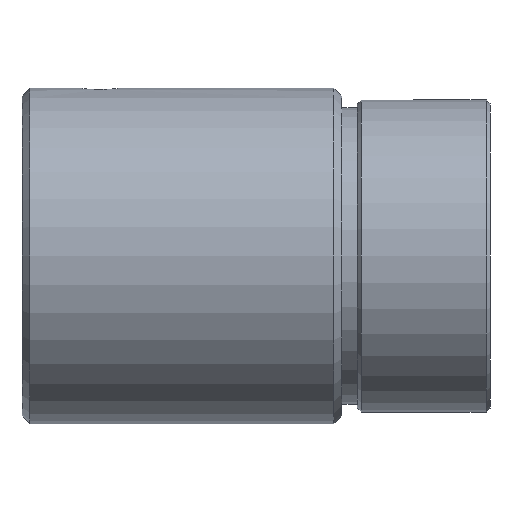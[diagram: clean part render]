
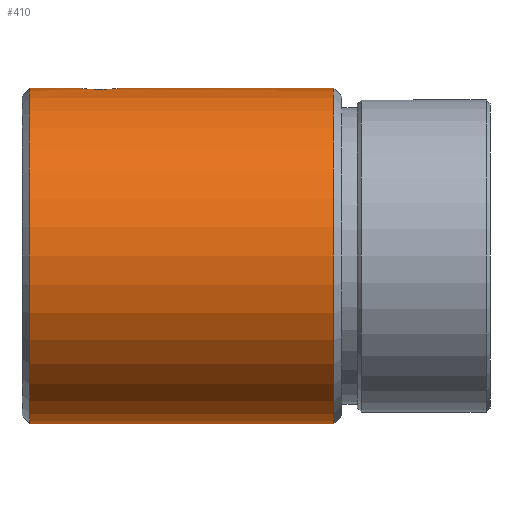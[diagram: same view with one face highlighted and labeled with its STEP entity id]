
A CAD part, front view. The second image highlights one B-rep face of the part: STEP entity #410.
In plain terms, the highlighted cylindrical face has radius 21.5 mm (diameter 43 mm), a partial arc.
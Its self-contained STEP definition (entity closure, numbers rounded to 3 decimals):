
#14 = EDGE_CURVE ( 'NONE', #494, #876, #759, .T. ) ;
#21 = CARTESIAN_POINT ( 'NONE',  ( 7.5, 0., 21.5 ) ) ;
#23 = CARTESIAN_POINT ( 'NONE',  ( 10.326, -2.484, 21.356 ) ) ;
#30 = VECTOR ( 'NONE', #858, 1000. ) ;
#62 = DIRECTION ( 'NONE',  ( -1., 0., 0. ) ) ;
#68 = CARTESIAN_POINT ( 'NONE',  ( 40., 0., -21.5 ) ) ;
#71 = CARTESIAN_POINT ( 'NONE',  ( 12.5, 0., 21.5 ) ) ;
#80 = LINE ( 'NONE', #899, #247 ) ;
#90 = CARTESIAN_POINT ( 'NONE',  ( 7.516, -0.325, 21.498 ) ) ;
#118 = ORIENTED_EDGE ( 'NONE', *, *, #203, .F. ) ;
#120 = CARTESIAN_POINT ( 'NONE',  ( 10.805, -2.373, 21.369 ) ) ;
#129 = CARTESIAN_POINT ( 'NONE',  ( -28.983, 0., 21.5 ) ) ;
#145 = ORIENTED_EDGE ( 'NONE', *, *, #377, .T. ) ;
#163 = CARTESIAN_POINT ( 'NONE',  ( 7.628, -0.806, 21.485 ) ) ;
#169 = CIRCLE ( 'NONE', #841, 21.5 ) ;
#181 = AXIS2_PLACEMENT_3D ( 'NONE', #473, #62, #553 ) ;
#194 = CARTESIAN_POINT ( 'NONE',  ( 11.251, -2.171, 21.39 ) ) ;
#200 = CARTESIAN_POINT ( 'NONE',  ( 40., 0., 0. ) ) ;
#202 = ORIENTED_EDGE ( 'NONE', *, *, #634, .T. ) ;
#203 = EDGE_CURVE ( 'NONE', #337, #876, #746, .T. ) ;
#211 = CARTESIAN_POINT ( 'NONE',  ( 12.5, 0., 21.5 ) ) ;
#230 = CARTESIAN_POINT ( 'NONE',  ( 8.746, -2.169, 21.391 ) ) ;
#231 = CARTESIAN_POINT ( 'NONE',  ( 7.83, -1.252, 21.464 ) ) ;
#247 = VECTOR ( 'NONE', #344, 1000. ) ;
#257 = CARTESIAN_POINT ( 'NONE',  ( 11.651, -1.884, 21.418 ) ) ;
#265 = DIRECTION ( 'NONE',  ( 0., 0., 1. ) ) ;
#266 = AXIS2_PLACEMENT_3D ( 'NONE', #306, #794, #378 ) ;
#272 = CARTESIAN_POINT ( 'NONE',  ( 8.116, -1.651, 21.437 ) ) ;
#284 = VERTEX_POINT ( 'NONE', #434 ) ;
#299 = CARTESIAN_POINT ( 'NONE',  ( 9.192, -2.372, 21.369 ) ) ;
#306 = CARTESIAN_POINT ( 'NONE',  ( 1., 0., 0. ) ) ;
#323 = CARTESIAN_POINT ( 'NONE',  ( 11.985, -1.528, 21.446 ) ) ;
#337 = VERTEX_POINT ( 'NONE', #647 ) ;
#344 = DIRECTION ( 'NONE',  ( -1., 0., 0. ) ) ;
#371 = CARTESIAN_POINT ( 'NONE',  ( 9.67, -2.484, 21.356 ) ) ;
#377 = EDGE_CURVE ( 'NONE', #866, #494, #169, .T. ) ;
#378 = DIRECTION ( 'NONE',  ( 0., 0., 1. ) ) ;
#393 = DIRECTION ( 'NONE',  ( -1., 0., 0. ) ) ;
#395 = CARTESIAN_POINT ( 'NONE',  ( 12.246, -1.11, 21.472 ) ) ;
#410 = ADVANCED_FACE ( 'NONE', ( #519 ), #542, .T. ) ;
#434 = CARTESIAN_POINT ( 'NONE',  ( 1., 0., -21.5 ) ) ;
#436 = CARTESIAN_POINT ( 'NONE',  ( 10.163, -2.5, 21.354 ) ) ;
#467 = EDGE_CURVE ( 'NONE', #284, #485, #603, .T. ) ;
#473 = CARTESIAN_POINT ( 'NONE',  ( -28.983, 0., 0. ) ) ;
#479 = CARTESIAN_POINT ( 'NONE',  ( 8.013, -1.525, 21.446 ) ) ;
#485 = VERTEX_POINT ( 'NONE', #516 ) ;
#486 = CARTESIAN_POINT ( 'NONE',  ( 12.5, -0.331, 21.5 ) ) ;
#494 = VERTEX_POINT ( 'NONE', #655 ) ;
#498 = EDGE_CURVE ( 'NONE', #866, #284, #584, .T. ) ;
#506 = CARTESIAN_POINT ( 'NONE',  ( 7.5, -0.163, 21.5 ) ) ;
#507 = CARTESIAN_POINT ( 'NONE',  ( 10.646, -2.421, 21.363 ) ) ;
#516 = CARTESIAN_POINT ( 'NONE',  ( 1., 0., 21.5 ) ) ;
#519 = FACE_OUTER_BOUND ( 'NONE', #748, .T. ) ;
#529 = ORIENTED_EDGE ( 'NONE', *, *, #14, .T. ) ;
#542 = CYLINDRICAL_SURFACE ( 'NONE', #181, 21.5 ) ;
#553 = DIRECTION ( 'NONE',  ( 0., 0., 1. ) ) ;
#580 = CARTESIAN_POINT ( 'NONE',  ( 7.58, -0.648, 21.491 ) ) ;
#584 = LINE ( 'NONE', #589, #30 ) ;
#589 = CARTESIAN_POINT ( 'NONE',  ( -28.983, 0., -21.5 ) ) ;
#602 = CARTESIAN_POINT ( 'NONE',  ( 11.107, -2.247, 21.382 ) ) ;
#603 = CIRCLE ( 'NONE', #266, 21.5 ) ;
#634 = EDGE_CURVE ( 'NONE', #337, #485, #80, .T. ) ;
#640 = CARTESIAN_POINT ( 'NONE',  ( 8.475, -1.987, 21.408 ) ) ;
#642 = CARTESIAN_POINT ( 'NONE',  ( 7.752, -1.107, 21.472 ) ) ;
#647 = CARTESIAN_POINT ( 'NONE',  ( 7.5, 0., 21.5 ) ) ;
#651 = ORIENTED_EDGE ( 'NONE', *, *, #467, .F. ) ;
#655 = CARTESIAN_POINT ( 'NONE',  ( 40., 0., 21.5 ) ) ;
#672 = CARTESIAN_POINT ( 'NONE',  ( 11.523, -1.989, 21.408 ) ) ;
#680 = DIRECTION ( 'NONE',  ( -1., 0., 0. ) ) ;
#710 = ORIENTED_EDGE ( 'NONE', *, *, #498, .F. ) ;
#716 = CARTESIAN_POINT ( 'NONE',  ( 8.89, -2.246, 21.382 ) ) ;
#724 = VECTOR ( 'NONE', #393, 1000. ) ;
#746 = B_SPLINE_CURVE_WITH_KNOTS ( 'NONE', 3,
 ( #21, #506, #90, #580, #163, #642, #231, #479, #272, #764, #640, #230, #716, #299, #788, #371, #851, #436, #23, #507, #120, #602, #194, #672, #257, #747, #323, #814, #395, #882, #486, #71 ),
 .UNSPECIFIED., .F., .F.,
 ( 4, 2, 2, 2, 2, 2, 2, 2, 2, 2, 2, 2, 2, 2, 2, 4 ),
 ( 0.008, 0.008, 0.009, 0.009, 0.01, 0.01, 0.011, 0.011, 0.012, 0.012, 0.013, 0.013, 0.014, 0.014, 0.015, 0.016 ),
 .UNSPECIFIED. ) ;
#747 = CARTESIAN_POINT ( 'NONE',  ( 11.882, -1.654, 21.437 ) ) ;
#748 = EDGE_LOOP ( 'NONE', ( #710, #145, #529, #118, #202, #651 ) ) ;
#759 = LINE ( 'NONE', #129, #724 ) ;
#764 = CARTESIAN_POINT ( 'NONE',  ( 8.346, -1.882, 21.418 ) ) ;
#788 = CARTESIAN_POINT ( 'NONE',  ( 9.351, -2.42, 21.363 ) ) ;
#794 = DIRECTION ( 'NONE',  ( -1., 0., 0. ) ) ;
#814 = CARTESIAN_POINT ( 'NONE',  ( 12.168, -1.255, 21.464 ) ) ;
#841 = AXIS2_PLACEMENT_3D ( 'NONE', #200, #680, #265 ) ;
#851 = CARTESIAN_POINT ( 'NONE',  ( 9.833, -2.5, 21.354 ) ) ;
#858 = DIRECTION ( 'NONE',  ( -1., 0., 0. ) ) ;
#866 = VERTEX_POINT ( 'NONE', #68 ) ;
#876 = VERTEX_POINT ( 'NONE', #211 ) ;
#882 = CARTESIAN_POINT ( 'NONE',  ( 12.433, -0.659, 21.492 ) ) ;
#899 = CARTESIAN_POINT ( 'NONE',  ( -28.983, 0., 21.5 ) ) ;
